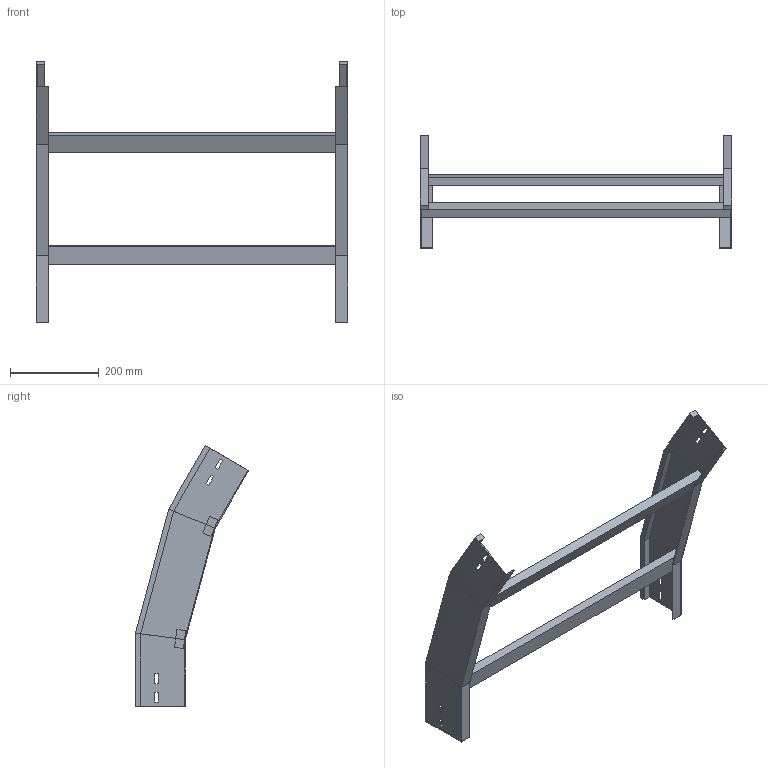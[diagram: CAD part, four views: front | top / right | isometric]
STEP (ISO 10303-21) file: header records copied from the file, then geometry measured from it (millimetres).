
FILE_DESCRIPTION (( 'STEP AP214' ), '1' );
FILE_NAME ('35B5J700.step', '2025-02-21T14:47:34', ( '' ), ( '' ), 'SwSTEP 2.0', 'SolidWorks 2023', '' );
FILE_SCHEMA (( 'AUTOMOTIVE_DESIGN' ));
Length unit declared in the file: millimetre
Products named in the file (3): 35B5J700; TRAVERSINO_700; LONGH.DISCESA_30°_H112.5_R500
Assembly tree (5 placements, depth 2):
  35B5J700
    LONGH.DISCESA_30°_H112.5_R500  x2
    TRAVERSINO_700  x3
Bounding box: 700 x 254.53 x 586.33 mm (x, y, z)
Volume: 2245840.7 mm3; surface area: 622746.8 mm2
Topology: 5 solids, 5 shells, 102 faces, 244 edges, 152 vertices
Faces by surface type: plane 102
Entity records: 1480 total; most frequent: CARTESIAN_POINT 244, ORIENTED_EDGE 232, DIRECTION 228, LINE 116, EDGE_CURVE 116, VECTOR 116, VERTEX_POINT 72, AXIS2_PLACEMENT_3D 56
